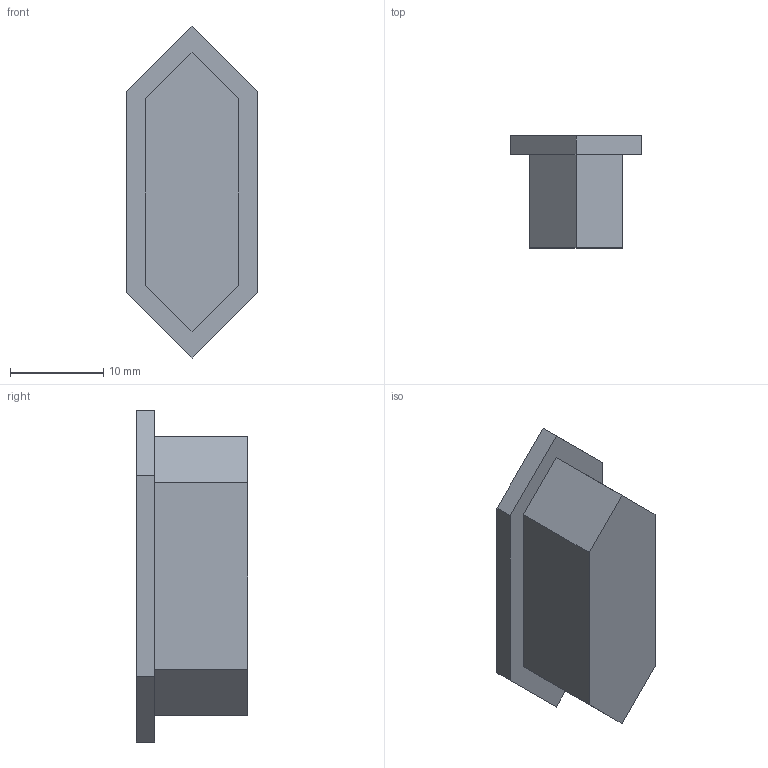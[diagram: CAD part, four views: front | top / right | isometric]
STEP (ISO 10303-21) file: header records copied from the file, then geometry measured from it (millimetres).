
FILE_DESCRIPTION(/* description */ ('STEP AP242','CAx-IF Rec.Pracs.---Representation and Presentation of Product Manufacturing Information (PMI)---4.0---2014-10-13','CAx-IF Rec.Pracs.---3D Tessellated Geometry---0.4---2014-09-14','2;1'),/* implementation_level */ '2;1');
FILE_NAME(/* name */ 'Part Studio 1 - Segment E',/* time_stamp */ '2025-09-04T05:47:29Z',/* author */ (''),/* organization */ (''),/* preprocessor_version */ 'ST-DEVELOPER v20',/* originating_system */ 'ONSHAPE BY PTC INC, 1.203',/* authorisation */ ' ');
FILE_SCHEMA (('AP242_MANAGED_MODEL_BASED_3D_ENGINEERING_MIM_LF { 1 0 10303 442 1 1 4 }'));
Length unit declared in the file: metre
Products named in the file (1): Segment E
Bounding box: 14 x 12 x 35.66 mm (x, y, z)
Volume: 2949.6 mm3; surface area: 1987.1 mm2
Topology: 1 solids, 1 shells, 25 faces, 60 edges, 40 vertices
Faces by surface type: plane 25
Entity records: 736 total; most frequent: CARTESIAN_POINT 126, ORIENTED_EDGE 120, DIRECTION 112, EDGE_CURVE 60, LINE 60, VECTOR 60, VERTEX_POINT 40, EDGE_LOOP 28
